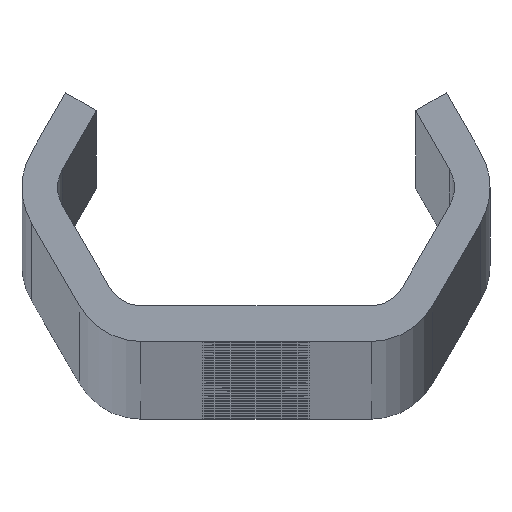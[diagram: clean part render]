
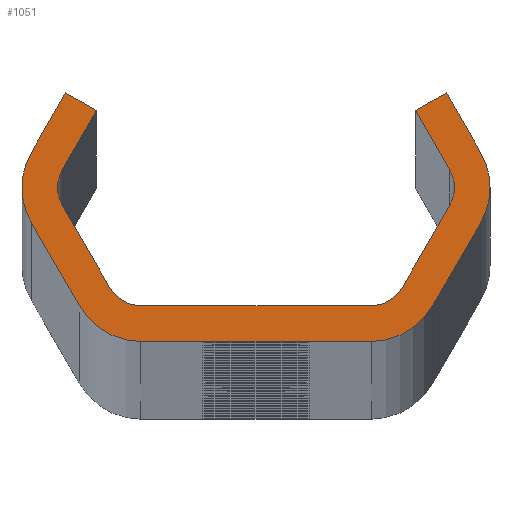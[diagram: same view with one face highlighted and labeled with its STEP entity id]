
A CAD part, top view. The second image highlights one B-rep face of the part: STEP entity #1051.
In plain terms, the highlighted planar face has unit normal (0, 0, 1).
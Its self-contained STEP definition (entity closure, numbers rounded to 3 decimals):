
#1051=ADVANCED_FACE('NONE',(#2954),#2955,.F.);
#2954=FACE_OUTER_BOUND('',#9728,.T.);
#2955=PLANE('',#9729);
#9728=EDGE_LOOP('',(#19761,#19762,#19763,#19764,#19765,#19766,#19767,#19768,#19769,#19770,#19771,#19772,#19773,#19774,#19775,#19776,#19777,#19778,#19779,#19780,#19781,#19782,#19783,#19784));
#9729=AXIS2_PLACEMENT_3D('',#19785,#19786,#19787);
#19761=ORIENTED_EDGE('',*,*,#26373,.T.);
#19762=ORIENTED_EDGE('',*,*,#26431,.T.);
#19763=ORIENTED_EDGE('',*,*,#25836,.T.);
#19764=ORIENTED_EDGE('',*,*,#26375,.T.);
#19765=ORIENTED_EDGE('',*,*,#26432,.T.);
#19766=ORIENTED_EDGE('',*,*,#26379,.T.);
#19767=ORIENTED_EDGE('',*,*,#26433,.T.);
#19768=ORIENTED_EDGE('',*,*,#25843,.T.);
#19769=ORIENTED_EDGE('',*,*,#26434,.T.);
#19770=ORIENTED_EDGE('',*,*,#25354,.T.);
#19771=ORIENTED_EDGE('',*,*,#25846,.T.);
#19772=ORIENTED_EDGE('',*,*,#25852,.T.);
#19773=ORIENTED_EDGE('',*,*,#25855,.T.);
#19774=ORIENTED_EDGE('',*,*,#25833,.T.);
#19775=ORIENTED_EDGE('',*,*,#26435,.T.);
#19776=ORIENTED_EDGE('',*,*,#25857,.T.);
#19777=ORIENTED_EDGE('',*,*,#26436,.T.);
#19778=ORIENTED_EDGE('',*,*,#25864,.T.);
#19779=ORIENTED_EDGE('',*,*,#26437,.T.);
#19780=ORIENTED_EDGE('',*,*,#26360,.T.);
#19781=ORIENTED_EDGE('',*,*,#26438,.T.);
#19782=ORIENTED_EDGE('',*,*,#25349,.T.);
#19783=ORIENTED_EDGE('',*,*,#26363,.T.);
#19784=ORIENTED_EDGE('',*,*,#26369,.T.);
#19785=CARTESIAN_POINT('',(0.0,0.0,3760.0));
#19786=DIRECTION('',(0.0,0.0,-1.0));
#19787=DIRECTION('',(0.0,-1.0,0.0));
#25349=EDGE_CURVE('NONE',#28234,#28238,#28240,.T.);
#25354=EDGE_CURVE('NONE',#28243,#28247,#28249,.T.);
#25833=EDGE_CURVE('NONE',#29111,#29109,#29112,.T.);
#25836=EDGE_CURVE('NONE',#29115,#29116,#29117,.T.);
#25843=EDGE_CURVE('NONE',#29129,#29127,#29130,.T.);
#25846=EDGE_CURVE('NONE',#28247,#29133,#29134,.T.);
#25852=EDGE_CURVE('NONE',#29133,#29141,#29143,.T.);
#25855=EDGE_CURVE('NONE',#29141,#29111,#29146,.T.);
#25857=EDGE_CURVE('NONE',#29148,#29149,#29150,.T.);
#25864=EDGE_CURVE('NONE',#29162,#29160,#29163,.T.);
#26360=EDGE_CURVE('NONE',#30082,#30080,#30083,.T.);
#26363=EDGE_CURVE('NONE',#28238,#30086,#30087,.T.);
#26369=EDGE_CURVE('NONE',#30086,#30094,#30096,.T.);
#26373=EDGE_CURVE('NONE',#30094,#30100,#30102,.T.);
#26375=EDGE_CURVE('NONE',#29116,#30104,#30105,.T.);
#26379=EDGE_CURVE('NONE',#30110,#30111,#30112,.T.);
#26431=EDGE_CURVE('NONE',#30100,#29115,#30166,.T.);
#26432=EDGE_CURVE('NONE',#30104,#30110,#30167,.T.);
#26433=EDGE_CURVE('NONE',#30111,#29129,#30168,.T.);
#26434=EDGE_CURVE('NONE',#29127,#28243,#30169,.T.);
#26435=EDGE_CURVE('NONE',#29109,#29148,#30170,.T.);
#26436=EDGE_CURVE('NONE',#29149,#29162,#30171,.T.);
#26437=EDGE_CURVE('NONE',#29160,#30082,#30172,.T.);
#26438=EDGE_CURVE('NONE',#30080,#28234,#30173,.T.);
#28234=VERTEX_POINT('',#32509);
#28238=VERTEX_POINT('NONE',#32514);
#28240=CIRCLE('',#32517,3.0);
#28243=VERTEX_POINT('',#32520);
#28247=VERTEX_POINT('NONE',#32525);
#28249=CIRCLE('',#32528,6.0);
#29109=VERTEX_POINT('NONE',#37682);
#29111=VERTEX_POINT('NONE',#37685);
#29112=CIRCLE('',#37686,3.0);
#29115=VERTEX_POINT('NONE',#37690);
#29116=VERTEX_POINT('NONE',#37691);
#29117=CIRCLE('',#37692,6.0);
#29127=VERTEX_POINT('NONE',#37705);
#29129=VERTEX_POINT('NONE',#37708);
#29130=LINE('',#37709,#37710);
#29133=VERTEX_POINT('NONE',#37714);
#29134=LINE('',#37715,#37716);
#29141=VERTEX_POINT('NONE',#37726);
#29143=LINE('',#37729,#37730);
#29146=LINE('',#37734,#37735);
#29148=VERTEX_POINT('NONE',#37737);
#29149=VERTEX_POINT('NONE',#37738);
#29150=LINE('',#37739,#37740);
#29160=VERTEX_POINT('NONE',#37754);
#29162=VERTEX_POINT('NONE',#37757);
#29163=LINE('',#37758,#37759);
#30080=VERTEX_POINT('NONE',#41078);
#30082=VERTEX_POINT('NONE',#41081);
#30083=LINE('',#41082,#41083);
#30086=VERTEX_POINT('NONE',#41087);
#30087=LINE('',#41088,#41089);
#30094=VERTEX_POINT('NONE',#41099);
#30096=LINE('',#41102,#41103);
#30100=VERTEX_POINT('NONE',#41108);
#30102=LINE('',#41111,#41112);
#30104=VERTEX_POINT('NONE',#41114);
#30105=LINE('',#41115,#41116);
#30110=VERTEX_POINT('NONE',#41123);
#30111=VERTEX_POINT('NONE',#41124);
#30112=LINE('',#41125,#41126);
#30166=CIRCLE('',#41183,6.0);
#30167=CIRCLE('',#41184,6.0);
#30168=CIRCLE('',#41185,6.0);
#30169=CIRCLE('',#41186,6.0);
#30170=CIRCLE('',#41187,3.0);
#30171=CIRCLE('',#41188,3.0);
#30172=CIRCLE('',#41189,3.0);
#30173=CIRCLE('',#41190,3.0);
#32509=CARTESIAN_POINT('',(-16.764,0.,3760.0));
#32514=CARTESIAN_POINT('',(-16.362,1.5,3760.0));
#32517=AXIS2_PLACEMENT_3D('',#48929,#48930,#48931);
#32520=CARTESIAN_POINT('',(19.764,0.,3760.0));
#32525=CARTESIAN_POINT('',(18.96,3.,3760.0));
#32528=AXIS2_PLACEMENT_3D('',#48937,#48938,#48939);
#37682=CARTESIAN_POINT('',(16.764,0.,3760.0));
#37685=CARTESIAN_POINT('',(16.362,1.5,3760.0));
#37686=AXIS2_PLACEMENT_3D('',#49416,#49417,#49418);
#37690=CARTESIAN_POINT('',(-19.764,0.,3760.0));
#37691=CARTESIAN_POINT('',(-18.96,-3.,3760.0));
#37692=AXIS2_PLACEMENT_3D('',#49420,#49421,#49422);
#37705=CARTESIAN_POINT('',(18.96,-3.,3760.0));
#37708=CARTESIAN_POINT('',(14.919,-10.,3760.0));
#37709=CARTESIAN_POINT('',(20.692,0.,3760.0));
#37710=VECTOR('',#49430,1000.0);
#37714=CARTESIAN_POINT('',(16.074,8.,3760.0));
#37715=CARTESIAN_POINT('',(16.074,8.,3760.0));
#37716=VECTOR('',#49432,1000.0);
#37726=CARTESIAN_POINT('',(13.475,6.5,3760.0));
#37729=CARTESIAN_POINT('',(13.475,6.5,3760.0));
#37730=VECTOR('',#49437,1000.0);
#37734=CARTESIAN_POINT('',(17.228,0.,3760.0));
#37735=VECTOR('',#49439,1000.0);
#37737=CARTESIAN_POINT('',(16.362,-1.5,3760.0));
#37738=CARTESIAN_POINT('',(12.321,-8.5,3760.0));
#37739=CARTESIAN_POINT('',(11.455,-10.0,3760.0));
#37740=VECTOR('',#49440,1000.0);
#37754=CARTESIAN_POINT('',(-9.723,-10.0,3760.0));
#37757=CARTESIAN_POINT('',(9.723,-10.0,3760.0));
#37758=CARTESIAN_POINT('',(-11.455,-10.0,3760.0));
#37759=VECTOR('',#49446,1000.0);
#41078=CARTESIAN_POINT('',(-16.362,-1.5,3760.0));
#41081=CARTESIAN_POINT('',(-12.321,-8.5,3760.0));
#41082=CARTESIAN_POINT('',(-17.228,0.,3760.0));
#41083=VECTOR('',#49987,1000.0);
#41087=CARTESIAN_POINT('',(-13.475,6.5,3760.0));
#41088=CARTESIAN_POINT('',(-13.475,6.5,3760.0));
#41089=VECTOR('',#49989,1000.0);
#41099=CARTESIAN_POINT('',(-16.074,8.,3760.0));
#41102=CARTESIAN_POINT('',(-13.475,6.5,3760.0));
#41103=VECTOR('',#49994,1000.0);
#41108=CARTESIAN_POINT('',(-18.96,3.,3760.0));
#41111=CARTESIAN_POINT('',(-16.074,8.,3760.0));
#41112=VECTOR('',#49997,1000.0);
#41114=CARTESIAN_POINT('',(-14.919,-10.,3760.0));
#41115=CARTESIAN_POINT('',(-20.692,0.,3760.0));
#41116=VECTOR('',#49998,1000.0);
#41123=CARTESIAN_POINT('',(-9.723,-13.0,3760.0));
#41124=CARTESIAN_POINT('',(9.723,-13.0,3760.0));
#41125=CARTESIAN_POINT('',(-13.187,-13.0,3760.0));
#41126=VECTOR('',#50001,1000.0);
#41183=AXIS2_PLACEMENT_3D('',#50146,#50147,#50148);
#41184=AXIS2_PLACEMENT_3D('',#50149,#50150,#50151);
#41185=AXIS2_PLACEMENT_3D('',#50152,#50153,#50154);
#41186=AXIS2_PLACEMENT_3D('',#50155,#50156,#50157);
#41187=AXIS2_PLACEMENT_3D('',#50158,#50159,#50160);
#41188=AXIS2_PLACEMENT_3D('',#50161,#50162,#50163);
#41189=AXIS2_PLACEMENT_3D('',#50164,#50165,#50166);
#41190=AXIS2_PLACEMENT_3D('',#50167,#50168,#50169);
#48929=CARTESIAN_POINT('',(-13.764,0.,3760.0));
#48930=DIRECTION('',(0.0,0.0,-1.0));
#48931=DIRECTION('',(-1.0,0.0,0.0));
#48937=CARTESIAN_POINT('',(13.764,0.,3760.0));
#48938=DIRECTION('',(0.0,0.0,1.0));
#48939=DIRECTION('',(-1.0,0.0,0.0));
#49416=CARTESIAN_POINT('',(13.764,0.,3760.0));
#49417=DIRECTION('',(0.0,0.0,-1.0));
#49418=DIRECTION('',(-1.0,0.0,0.0));
#49420=CARTESIAN_POINT('',(-13.764,0.,3760.0));
#49421=DIRECTION('',(0.0,0.0,1.0));
#49422=DIRECTION('',(-1.0,0.0,0.0));
#49430=DIRECTION('',(0.5,0.866,-0.0));
#49432=DIRECTION('',(-0.5,0.866,-0.0));
#49437=DIRECTION('',(-0.866,-0.5,-0.0));
#49439=DIRECTION('',(0.5,-0.866,-0.0));
#49440=DIRECTION('',(-0.5,-0.866,-0.0));
#49446=DIRECTION('',(-1.0,0.,-0.0));
#49987=DIRECTION('',(-0.5,0.866,-0.0));
#49989=DIRECTION('',(0.5,0.866,-0.0));
#49994=DIRECTION('',(-0.866,0.5,0.0));
#49997=DIRECTION('',(-0.5,-0.866,0.0));
#49998=DIRECTION('',(0.5,-0.866,0.0));
#50001=DIRECTION('',(1.0,0.0,0.0));
#50146=CARTESIAN_POINT('',(-13.764,0.,3760.0));
#50147=DIRECTION('',(0.0,0.0,1.0));
#50148=DIRECTION('',(-1.0,0.,0.0));
#50149=CARTESIAN_POINT('',(-9.723,-7.0,3760.0));
#50150=DIRECTION('',(0.0,0.0,1.0));
#50151=DIRECTION('',(-1.0,0.0,0.0));
#50152=CARTESIAN_POINT('',(9.723,-7.0,3760.0));
#50153=DIRECTION('',(0.0,0.0,1.0));
#50154=DIRECTION('',(-1.0,0.,0.0));
#50155=CARTESIAN_POINT('',(13.764,0.,3760.0));
#50156=DIRECTION('',(0.0,0.0,1.0));
#50157=DIRECTION('',(-1.0,0.0,0.0));
#50158=CARTESIAN_POINT('',(13.764,0.,3760.0));
#50159=DIRECTION('',(0.0,0.0,-1.0));
#50160=DIRECTION('',(-1.0,0.0,0.0));
#50161=CARTESIAN_POINT('',(9.723,-7.0,3760.0));
#50162=DIRECTION('',(0.0,0.0,-1.0));
#50163=DIRECTION('',(-1.0,0.0,0.0));
#50164=CARTESIAN_POINT('',(-9.723,-7.0,3760.0));
#50165=DIRECTION('',(0.0,0.0,-1.0));
#50166=DIRECTION('',(-1.0,0.0,0.0));
#50167=CARTESIAN_POINT('',(-13.764,0.,3760.0));
#50168=DIRECTION('',(0.0,0.0,-1.0));
#50169=DIRECTION('',(-1.0,0.0,0.0));
